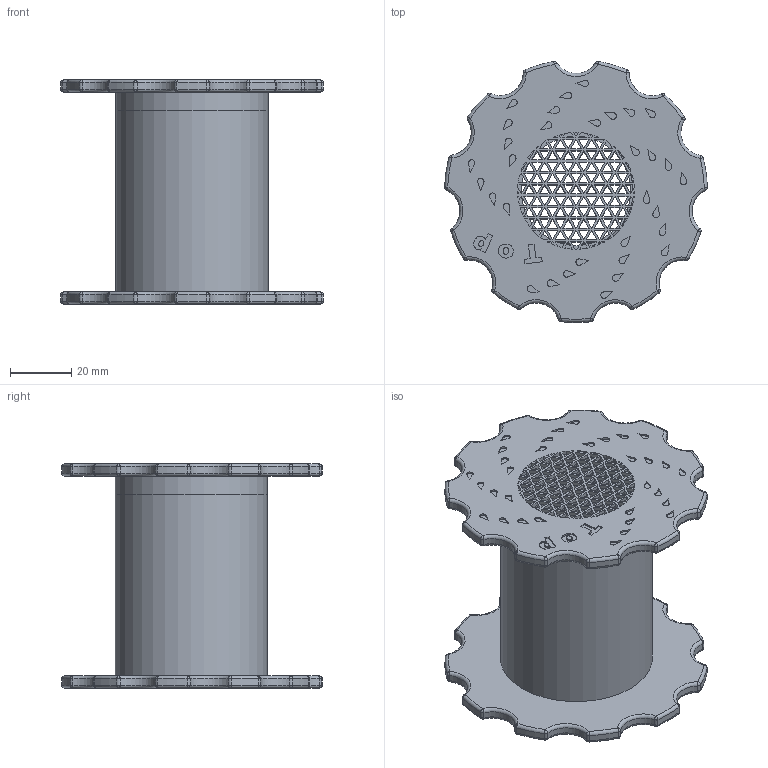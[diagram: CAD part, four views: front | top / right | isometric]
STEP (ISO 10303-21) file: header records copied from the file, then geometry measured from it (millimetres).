
FILE_DESCRIPTION(/* description */ (''),/* implementation_level */ '2;1');
FILE_NAME(/* name */ 'SpinCycleTogether v2.step',/* time_stamp */ '2022-12-06T11:40:20-05:00',/* author */ (''),/* organization */ (''),/* preprocessor_version */ 'ST-DEVELOPER v19.2',/* originating_system */ 'Autodesk Translation Framework v11.17.0.187',/* authorisation */ '');
FILE_SCHEMA (('AUTOMOTIVE_DESIGN { 1 0 10303 214 3 1 1 }'));
Length unit declared in the file: millimetre
Products named in the file (3): SpinCycleTogether; SpinCycleJar; SpinCycleLid
Assembly tree (2 placements, depth 2):
  SpinCycleTogether
    SpinCycleJar
    SpinCycleLid
Bounding box: 85.46 x 84.86 x 73 mm (x, y, z)
Volume: 51683.7 mm3; surface area: 48704.1 mm2
Topology: 2 solids, 2 shells, 1638 faces, 4383 edges, 2833 vertices
Faces by surface type: plane 1085, cylinder 258, bspline 117, torus 88, sphere 88, cone 2
Full cylindrical faces by diameter (mm): 35.6 x1, 37.132 x1, 38.17 x1, 41.703 x2, 42.639 x2, 47.1 x1, 49.5 x2
Entity records: 55055 total; most frequent: CARTESIAN_POINT 13162, ORIENTED_EDGE 8766, DIRECTION 7938, EDGE_CURVE 4383, LINE 3360, VECTOR 3360, VERTEX_POINT 2833, EDGE_LOOP 2294
